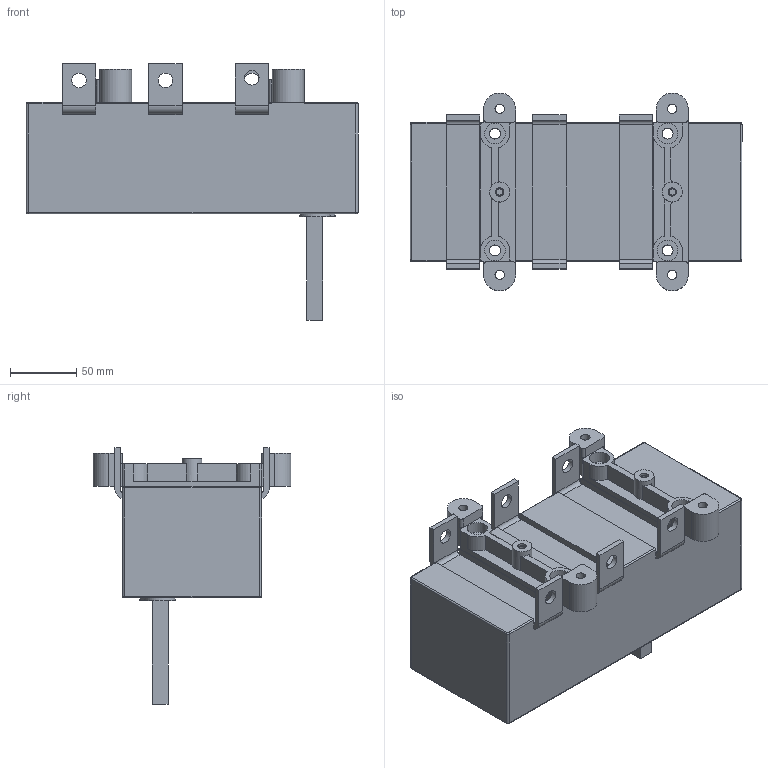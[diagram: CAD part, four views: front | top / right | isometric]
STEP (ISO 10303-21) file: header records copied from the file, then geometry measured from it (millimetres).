
FILE_DESCRIPTION(/* description */ (''),/* implementation_level */ '2;1');
FILE_NAME(/* name */ 'RA400 P3 C.stp',/* time_stamp */ '2021-08-18T14:25:51+02:00',/* author */ (''),/* organization */ (''),/* preprocessor_version */ 'ST-DEVELOPER v18.1',/* originating_system */ 'SIEMENS PLM Software NX 1965',/* authorisation */ '');
FILE_SCHEMA (('AUTOMOTIVE_DESIGN { 1 0 10303 214 3 1 1 1 }'));
Length unit declared in the file: millimetre
Products named in the file (1): RA400 P3 C
Bounding box: 250 x 149 x 193.11 mm (x, y, z)
Volume: 2260281.6 mm3; surface area: 164008 mm2
Topology: 1 solids, 1 shells, 218 faces, 576 edges, 377 vertices
Faces by surface type: plane 114, cylinder 96, bspline 8
Full cylindrical faces by diameter (mm): 4.8 x2, 6.2 x2, 7 x4, 8.2 x4, 11 x6, 14 x4, 15 x2, 15.5 x4
Entity records: 6816 total; most frequent: CARTESIAN_POINT 1286, DIRECTION 1182, ORIENTED_EDGE 1088, EDGE_CURVE 544, AXIS2_PLACEMENT_3D 429, VERTEX_POINT 370, LINE 324, VECTOR 324
